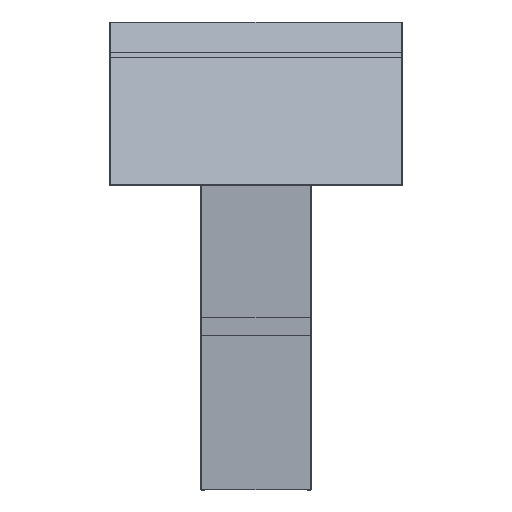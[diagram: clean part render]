
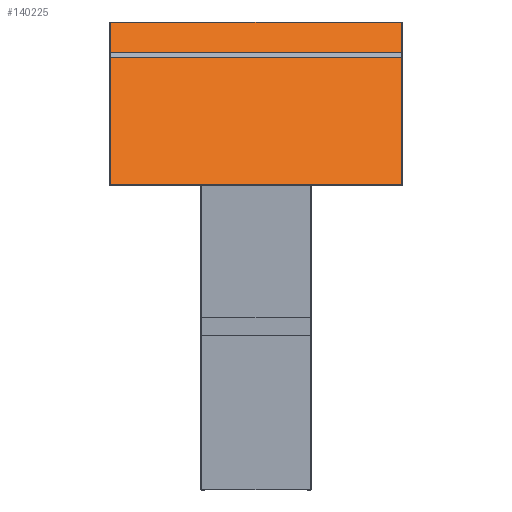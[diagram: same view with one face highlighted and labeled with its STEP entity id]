
A CAD part, top view. The second image highlights one B-rep face of the part: STEP entity #140225.
In plain terms, the highlighted planar face has unit normal (0, -0.53, -0.848).
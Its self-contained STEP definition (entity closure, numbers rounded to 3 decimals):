
#140146=CARTESIAN_POINT('Axis2P3D Location',(-396.5,-81.938,160.655)) ;
#140152=CARTESIAN_POINT('Control Point',(-396.5,-82.786,161.185)) ;
#140153=CARTESIAN_POINT('Control Point',(-396.5,-82.519,161.018)) ;
#140154=CARTESIAN_POINT('Control Point',(-396.379,-82.255,160.853)) ;
#140155=CARTESIAN_POINT('Control Point',(-396.126,-82.041,160.72)) ;
#140156=CARTESIAN_POINT('Control Point',(-395.815,-81.938,160.656)) ;
#140157=CARTESIAN_POINT('Control Point',(-395.5,-81.938,160.655)) ;
#140158=CARTESIAN_POINT('Vertex',(-396.5,-82.786,161.185)) ;
#140160=CARTESIAN_POINT('Vertex',(-395.5,-81.938,160.655)) ;
#140164=CARTESIAN_POINT('Control Point',(-395.5,-81.938,160.655)) ;
#140165=CARTESIAN_POINT('Control Point',(395.5,-81.938,160.655)) ;
#140166=CARTESIAN_POINT('Vertex',(395.5,-81.938,160.655)) ;
#140170=CARTESIAN_POINT('Control Point',(395.5,-81.938,160.655)) ;
#140171=CARTESIAN_POINT('Control Point',(395.815,-81.938,160.656)) ;
#140172=CARTESIAN_POINT('Control Point',(396.126,-82.041,160.72)) ;
#140173=CARTESIAN_POINT('Control Point',(396.379,-82.255,160.853)) ;
#140174=CARTESIAN_POINT('Control Point',(396.5,-82.519,161.018)) ;
#140175=CARTESIAN_POINT('Control Point',(396.5,-82.786,161.185)) ;
#140176=CARTESIAN_POINT('Vertex',(396.5,-82.786,161.185)) ;
#140180=CARTESIAN_POINT('Control Point',(396.5,-82.786,161.185)) ;
#140181=CARTESIAN_POINT('Control Point',(396.5,-524.619,437.273)) ;
#140182=CARTESIAN_POINT('Vertex',(396.5,-524.619,437.273)) ;
#140186=CARTESIAN_POINT('Control Point',(396.5,-524.619,437.273)) ;
#140187=CARTESIAN_POINT('Control Point',(396.5,-524.887,437.44)) ;
#140188=CARTESIAN_POINT('Control Point',(396.379,-525.151,437.605)) ;
#140189=CARTESIAN_POINT('Control Point',(396.126,-525.364,437.739)) ;
#140190=CARTESIAN_POINT('Control Point',(395.815,-525.467,437.803)) ;
#140191=CARTESIAN_POINT('Control Point',(395.5,-525.467,437.803)) ;
#140192=CARTESIAN_POINT('Vertex',(395.5,-525.467,437.803)) ;
#140196=CARTESIAN_POINT('Control Point',(395.5,-525.467,437.803)) ;
#140197=CARTESIAN_POINT('Control Point',(-395.5,-525.467,437.803)) ;
#140198=CARTESIAN_POINT('Vertex',(-395.5,-525.467,437.803)) ;
#140202=CARTESIAN_POINT('Control Point',(-395.5,-525.467,437.803)) ;
#140203=CARTESIAN_POINT('Control Point',(-395.815,-525.467,437.803)) ;
#140204=CARTESIAN_POINT('Control Point',(-396.126,-525.364,437.739)) ;
#140205=CARTESIAN_POINT('Control Point',(-396.379,-525.151,437.605)) ;
#140206=CARTESIAN_POINT('Control Point',(-396.5,-524.887,437.44)) ;
#140207=CARTESIAN_POINT('Control Point',(-396.5,-524.619,437.273)) ;
#140208=CARTESIAN_POINT('Vertex',(-396.5,-524.619,437.273)) ;
#140212=CARTESIAN_POINT('Control Point',(-396.5,-524.619,437.273)) ;
#140213=CARTESIAN_POINT('Control Point',(-396.5,-82.786,161.185)) ;
#140147=DIRECTION('Axis2P3D Direction',(0.,-0.53,-0.848)) ;
#140148=DIRECTION('Axis2P3D XDirection',(1.,0.,0.)) ;
#140149=AXIS2_PLACEMENT_3D('Plane Axis2P3D',#140146,#140147,#140148) ;
#140216=ORIENTED_EDGE('',*,*,#140162,.T.) ;
#140217=ORIENTED_EDGE('',*,*,#140168,.T.) ;
#140218=ORIENTED_EDGE('',*,*,#140178,.T.) ;
#140219=ORIENTED_EDGE('',*,*,#140184,.T.) ;
#140220=ORIENTED_EDGE('',*,*,#140194,.T.) ;
#140221=ORIENTED_EDGE('',*,*,#140200,.T.) ;
#140222=ORIENTED_EDGE('',*,*,#140210,.T.) ;
#140223=ORIENTED_EDGE('',*,*,#140214,.T.) ;
#140225=ADVANCED_FACE('Superficie.2475',(#140224),#140150,.T.) ;
#140151=B_SPLINE_CURVE_WITH_KNOTS('',5,(#140152,#140153,#140154,#140155,#140156,#140157),.UNSPECIFIED.,.F.,.U.,(6,6),(0.,1.655),.UNSPECIFIED.) ;
#140163=B_SPLINE_CURVE_WITH_KNOTS('',1,(#140164,#140165),.UNSPECIFIED.,.F.,.U.,(2,2),(0.,791.),.UNSPECIFIED.) ;
#140169=B_SPLINE_CURVE_WITH_KNOTS('',5,(#140170,#140171,#140172,#140173,#140174,#140175),.UNSPECIFIED.,.F.,.U.,(6,6),(0.,1.655),.UNSPECIFIED.) ;
#140179=B_SPLINE_CURVE_WITH_KNOTS('',1,(#140180,#140181),.UNSPECIFIED.,.F.,.U.,(2,2),(0.,521.),.UNSPECIFIED.) ;
#140185=B_SPLINE_CURVE_WITH_KNOTS('',5,(#140186,#140187,#140188,#140189,#140190,#140191),.UNSPECIFIED.,.F.,.U.,(6,6),(0.,1.655),.UNSPECIFIED.) ;
#140195=B_SPLINE_CURVE_WITH_KNOTS('',1,(#140196,#140197),.UNSPECIFIED.,.F.,.U.,(2,2),(0.,791.),.UNSPECIFIED.) ;
#140201=B_SPLINE_CURVE_WITH_KNOTS('',5,(#140202,#140203,#140204,#140205,#140206,#140207),.UNSPECIFIED.,.F.,.U.,(6,6),(0.,1.655),.UNSPECIFIED.) ;
#140211=B_SPLINE_CURVE_WITH_KNOTS('',1,(#140212,#140213),.UNSPECIFIED.,.F.,.U.,(2,2),(0.,521.),.UNSPECIFIED.) ;
#140162=EDGE_CURVE('',#140159,#140161,#140151,.T.) ;
#140168=EDGE_CURVE('',#140161,#140167,#140163,.T.) ;
#140178=EDGE_CURVE('',#140167,#140177,#140169,.T.) ;
#140184=EDGE_CURVE('',#140177,#140183,#140179,.T.) ;
#140194=EDGE_CURVE('',#140183,#140193,#140185,.T.) ;
#140200=EDGE_CURVE('',#140193,#140199,#140195,.T.) ;
#140210=EDGE_CURVE('',#140199,#140209,#140201,.T.) ;
#140214=EDGE_CURVE('',#140209,#140159,#140211,.T.) ;
#140215=EDGE_LOOP('',(#140216,#140217,#140218,#140219,#140220,#140221,#140222,#140223)) ;
#140224=FACE_OUTER_BOUND('',#140215,.T.) ;
#140150=PLANE('',#140149) ;
#140159=VERTEX_POINT('',#140158) ;
#140161=VERTEX_POINT('',#140160) ;
#140167=VERTEX_POINT('',#140166) ;
#140177=VERTEX_POINT('',#140176) ;
#140183=VERTEX_POINT('',#140182) ;
#140193=VERTEX_POINT('',#140192) ;
#140199=VERTEX_POINT('',#140198) ;
#140209=VERTEX_POINT('',#140208) ;
